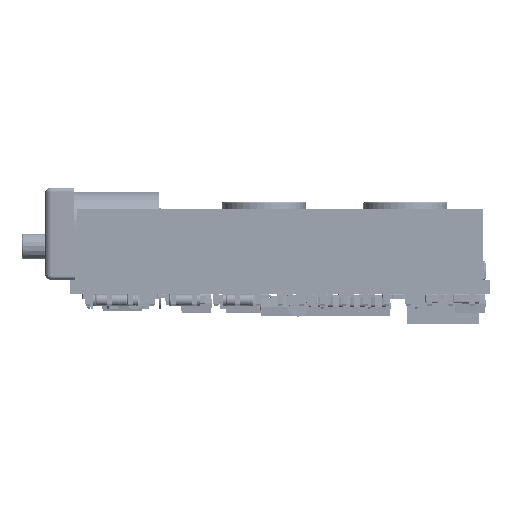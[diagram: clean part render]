
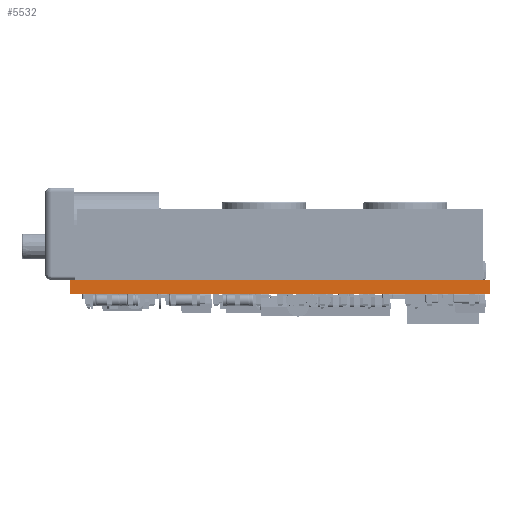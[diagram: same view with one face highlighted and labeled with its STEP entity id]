
A CAD part, left-side view. The second image highlights one B-rep face of the part: STEP entity #5532.
In plain terms, the highlighted planar face has unit normal (-1, 0, 0).
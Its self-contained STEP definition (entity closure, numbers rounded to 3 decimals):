
#5434 = EDGE_CURVE('',#5435,#5437,#5439,.T.);
#5435 = VERTEX_POINT('',#5436);
#5436 = CARTESIAN_POINT('',(0.,0.,-1.691));
#5437 = VERTEX_POINT('',#5438);
#5438 = CARTESIAN_POINT('',(0.,0.,0.));
#5439 = LINE('',#5440,#5441);
#5440 = CARTESIAN_POINT('',(0.,0.,-1.691));
#5441 = VECTOR('',#5442,1.);
#5442 = DIRECTION('',(0.,0.,1.));
#5507 = VERTEX_POINT('',#5508);
#5508 = CARTESIAN_POINT('',(0.,50.,0.));
#5514 = EDGE_CURVE('',#5515,#5507,#5517,.T.);
#5515 = VERTEX_POINT('',#5516);
#5516 = CARTESIAN_POINT('',(0.,50.,-1.691));
#5517 = LINE('',#5518,#5519);
#5518 = CARTESIAN_POINT('',(0.,50.,-1.691));
#5519 = VECTOR('',#5520,1.);
#5520 = DIRECTION('',(0.,0.,1.));
#5532 = ADVANCED_FACE('',(#5533),#5549,.F.);
#5533 = FACE_BOUND('',#5534,.F.);
#5534 = EDGE_LOOP('',(#5535,#5536,#5542,#5543));
#5535 = ORIENTED_EDGE('',*,*,#5514,.T.);
#5536 = ORIENTED_EDGE('',*,*,#5537,.T.);
#5537 = EDGE_CURVE('',#5507,#5437,#5538,.T.);
#5538 = LINE('',#5539,#5540);
#5539 = CARTESIAN_POINT('',(0.,50.,0.));
#5540 = VECTOR('',#5541,1.);
#5541 = DIRECTION('',(0.,-1.,0.));
#5542 = ORIENTED_EDGE('',*,*,#5434,.F.);
#5543 = ORIENTED_EDGE('',*,*,#5544,.F.);
#5544 = EDGE_CURVE('',#5515,#5435,#5545,.T.);
#5545 = LINE('',#5546,#5547);
#5546 = CARTESIAN_POINT('',(0.,50.,-1.691));
#5547 = VECTOR('',#5548,1.);
#5548 = DIRECTION('',(0.,-1.,0.));
#5549 = PLANE('',#5550);
#5550 = AXIS2_PLACEMENT_3D('',#5551,#5552,#5553);
#5551 = CARTESIAN_POINT('',(0.,50.,-1.691));
#5552 = DIRECTION('',(1.,0.,0.));
#5553 = DIRECTION('',(0.,-1.,0.));
